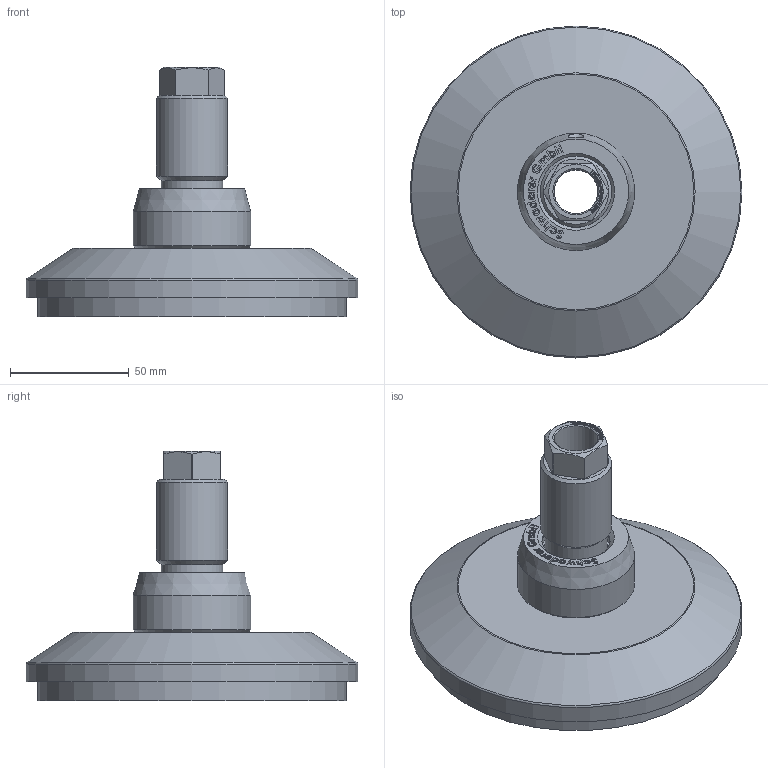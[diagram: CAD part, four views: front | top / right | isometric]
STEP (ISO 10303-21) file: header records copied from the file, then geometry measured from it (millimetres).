
FILE_DESCRIPTION(/* description */ ('JCM 130C - M30 - S6'),/* implementation_level */ '2;1');
FILE_NAME(/* name */ 'P:\CAD ab 2015\STP - Internetseite\JCMHD\JCMHD 130C - S12 - HSD70.stp',/* time_stamp */ '2021-10-01T09:37:17+02:00',/* author */ ('torsten'),/* organization */ ('Schwaderer GmbH Robert-Bosch-Str. 10 71563 Affalterbach'),/* preprocessor_version */ 'ST-DEVELOPER v18.1',/* originating_system */ 'Autodesk Inventor LT',/* authorisation */ '');
FILE_SCHEMA (('CONFIG_CONTROL_DESIGN'));
Length unit declared in the file: millimetre
Products named in the file (1): JCMHD 130C - S6 - HSD70
Bounding box: 140 x 140 x 105.4 mm (x, y, z)
Volume: 418833.4 mm3; surface area: 90352.9 mm2
Topology: 4 solids, 4 shells, 479 faces, 1302 edges, 871 vertices
Faces by surface type: plane 243, bspline 192, cylinder 23, cone 17, torus 3, sphere 1
Full cylindrical faces by diameter (mm): 5 x1, 18.5 x2, 25 x1, 26 x1, 26.5 x1, 27.5 x1, 28.5 x2, 30 x2, 31 x1, 49.5 x1, 130 x2, 140 x1
Entity records: 16618 total; most frequent: CARTESIAN_POINT 5625, ORIENTED_EDGE 2604, DIRECTION 1597, EDGE_CURVE 1302, VERTEX_POINT 871, LINE 781, VECTOR 781, EDGE_LOOP 529
